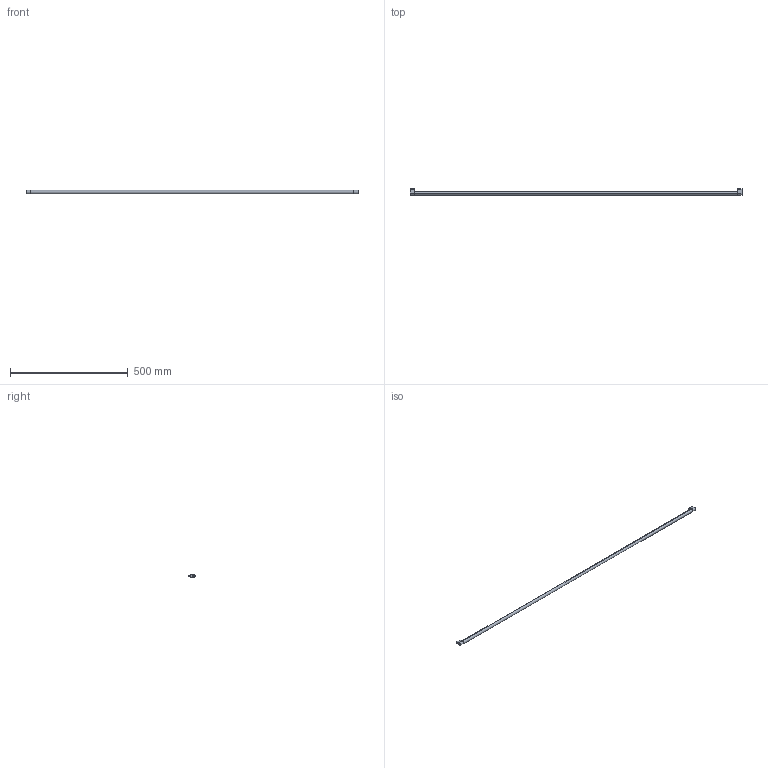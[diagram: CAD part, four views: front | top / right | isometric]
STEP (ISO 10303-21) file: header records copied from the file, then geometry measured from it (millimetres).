
FILE_DESCRIPTION (( 'STEP AP214' ), '1' );
FILE_NAME ('_Synchronisationseinheit Nova Pro KAB1500_S19.step', '2010-07-08T13:58:53', ( 'grass' ), ( '' ), 'SwSTEP 2.0', 'SolidWorks 2010', '' );
FILE_SCHEMA (( 'AUTOMOTIVE_DESIGN' ));
Length unit declared in the file: millimetre
Products named in the file (1): _Synchronisationseinheit Nova Pro KAB1500_S19
Bounding box: 1409 x 26.5 x 14 mm (x, y, z)
Volume: 220585.5 mm3; surface area: 64818 mm2
Topology: 3 solids, 3 shells, 36 faces, 78 edges, 52 vertices
Faces by surface type: cylinder 18, plane 18
Entity records: 1050 total; most frequent: DIRECTION 188, CARTESIAN_POINT 167, ORIENTED_EDGE 156, EDGE_CURVE 78, AXIS2_PLACEMENT_3D 73, VERTEX_POINT 52, LINE 42, VECTOR 42
